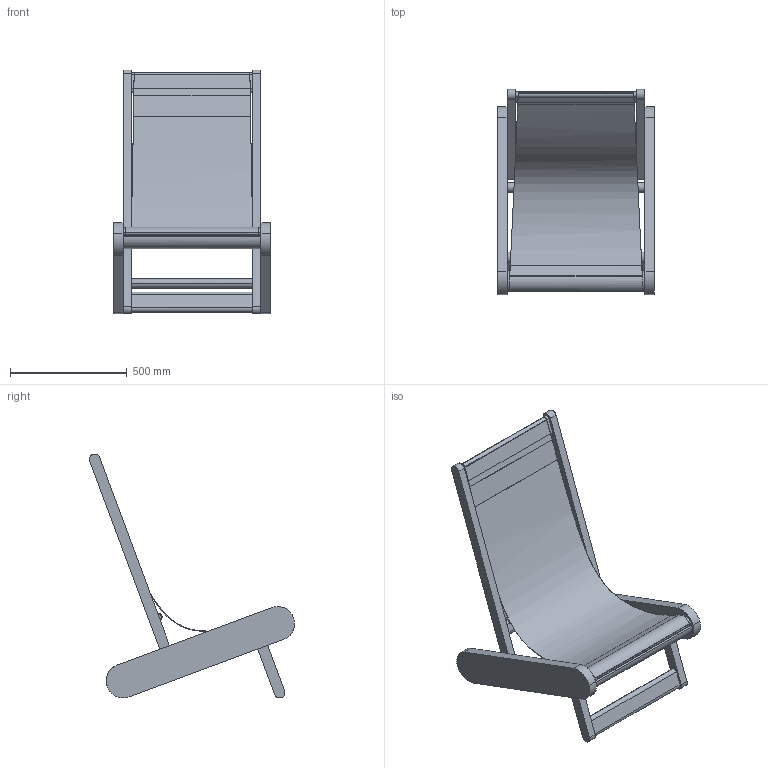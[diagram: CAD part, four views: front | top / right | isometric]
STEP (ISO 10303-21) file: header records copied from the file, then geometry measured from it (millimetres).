
FILE_DESCRIPTION(/* description */ (''),/* implementation_level */ '2;1');
FILE_NAME(/* name */ 'Hemi lounge chair_3D',/* time_stamp */ '2024-09-03T15:58:07+02:00',/* author */ (''),/* organization */ (''),/* preprocessor_version */ 'ST-DEVELOPER v16.5',/* originating_system */ 'Rhino 7.37',/* authorisation */ '');
FILE_SCHEMA (('CONFIG_CONTROL_DESIGN'));
Length unit declared in the file: millimetre
Products named in the file (1): Document
Bounding box: 670 x 876.7 x 1043.05 mm (x, y, z)
Volume: 23373833.4 mm3; surface area: 4271498.4 mm2
Topology: 16 solids, 16 shells, 179 faces, 418 edges, 279 vertices
Faces by surface type: cylinder 84, plane 79, bspline 16
Entity records: 6447 total; most frequent: CARTESIAN_POINT 3597, ORIENTED_EDGE 834, EDGE_CURVE 417, VERTEX_POINT 278, EDGE_LOOP 203, ADVANCED_FACE 179, FACE_OUTER_BOUND 179, DIRECTION 169
